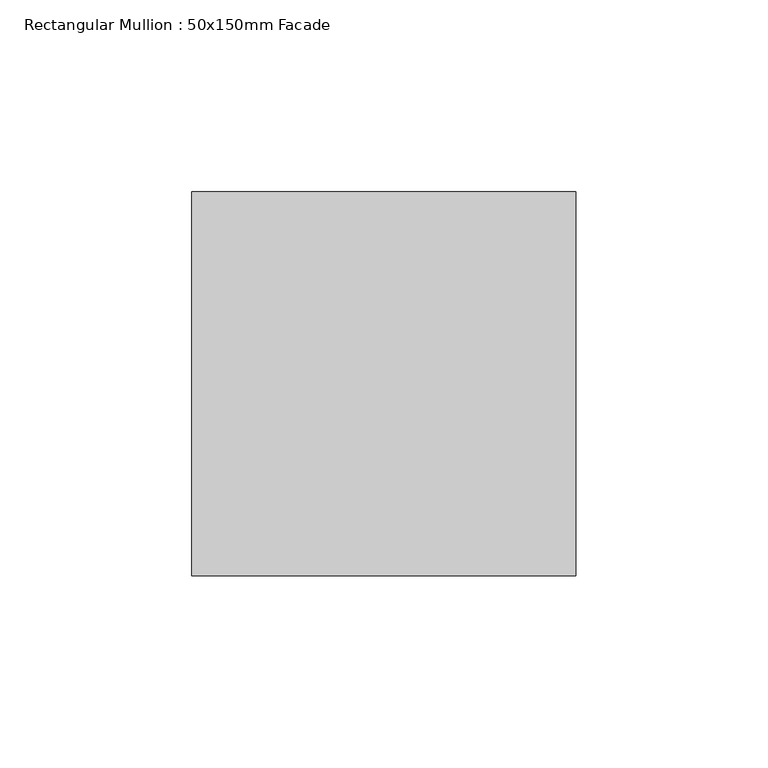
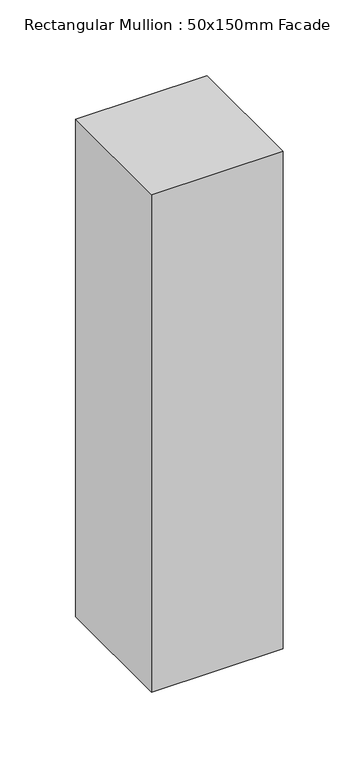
"""IFC4 building model written with IfcOpenShell, lengths in millimetres: member geometry, Rectangular Mullion : 50x150mm Facade."""

import ifcopenshell
import ifcopenshell.guid

model = None  # the IFC model being written
_history = None  # IfcOwnerHistory: only IFC2X3 demands one
_inside = {}  # id of a spatial element -> (the spatial element, [elements in it])
_under = {}  # id of a project, library or spatial element -> (it, [spatial elements below it])
_declared = {}  # id of a project -> (the project, [libraries it declares])
_typed = {}  # id of a type object -> (the type object, [elements of that type])
_made_of = {}  # id of a material, layer set ... -> (it, [elements and type objects made of it])


def new_model(schema):
    """Start an empty IFC model of exactly this schema.

    Asked for "IFC4X3", IfcOpenShell would pick the latest addendum, in which some entities
    have other attributes; the version numbers below select the first issue.
    IFC2X3 requires an IfcOwnerHistory on every rooted entity: one is made here for all.
    """
    global model, _history
    if schema == "IFC4X3":
        model = ifcopenshell.file(schema_version=(4, 3, 0, 0))
    else:
        model = ifcopenshell.file(schema=schema)
    _inside.clear()
    _under.clear()
    _declared.clear()
    _typed.clear()
    _made_of.clear()
    _history = None
    if model.schema == "IFC2X3":
        org = make("IfcOrganization", Name="unknown")
        user = make(
            "IfcPersonAndOrganization",
            ThePerson=make("IfcPerson", FamilyName="unknown"),
            TheOrganization=org,
        )
        app = make(
            "IfcApplication",
            ApplicationDeveloper=org,
            Version="unknown",
            ApplicationFullName="unknown",
            ApplicationIdentifier="unknown",
        )
        _history = make(
            "IfcOwnerHistory",
            OwningUser=user,
            OwningApplication=app,
            ChangeAction="ADDED",
            CreationDate=0,
        )
    return model


def make(cls, **values):
    """One entity of the class cls with the attributes given. An attribute that is None is left unset."""
    return model.create_entity(
        cls, **{name: value for name, value in values.items() if value is not None}
    )


def rooted(cls, **values):
    """An entity with a GlobalId (a new one), such as an element, a storey or a relation."""
    return make(cls, GlobalId=ifcopenshell.guid.new(), OwnerHistory=_history, **values)


def si_unit(unit_type, name, prefix=None):
    """IfcSIUnit, for example si_unit("LENGTHUNIT", "METRE", prefix="MILLI")."""
    return make("IfcSIUnit", UnitType=unit_type, Prefix=prefix, Name=name)


def assignment(units):
    """IfcUnitAssignment: the units of a project."""
    return None if units is None else make("IfcUnitAssignment", Units=units)


def point(xyz):
    """IfcCartesianPoint."""
    return None if xyz is None else make("IfcCartesianPoint", Coordinates=xyz)


def direction(xyz):
    """IfcDirection."""
    return None if xyz is None else make("IfcDirection", DirectionRatios=xyz)


def frame(location, z_axis=None, x_axis=None):
    """IfcAxis2Placement3D, a coordinate frame: its origin and axes. An axis left out is left unset."""
    return make(
        "IfcAxis2Placement3D",
        Location=point(location),
        Axis=direction(z_axis),
        RefDirection=direction(x_axis),
    )


def origin():
    """The frame at (0, 0, 0) with its axes left unset."""
    return frame((0.0, 0.0, 0.0))


def place(relative_to, where):
    """IfcLocalPlacement: puts the frame where relative to a parent placement (None: the world)."""
    return make(
        "IfcLocalPlacement", PlacementRelTo=relative_to, RelativePlacement=where
    )


def context(
    kind, dimensions, precision=None, world=None, true_north=None, identifier=None
):
    """IfcGeometricRepresentationContext, for example the 3D "Model" context."""
    return make(
        "IfcGeometricRepresentationContext",
        ContextIdentifier=identifier,
        ContextType=kind,
        CoordinateSpaceDimension=dimensions,
        Precision=precision,
        WorldCoordinateSystem=world,
        TrueNorth=true_north,
    )


def project(units=None, contexts=None):
    """IfcProject with its units and contexts."""
    return rooted(
        "IfcProject",
        Name="project",
        RepresentationContexts=contexts,
        UnitsInContext=assignment(units),
    )


def spatial(cls, under=None, at=None, **own):
    """A site, building, storey or space (cls), placed at a placement, below another one or the project."""
    s = rooted(cls, ObjectPlacement=at, **own)
    if under is not None:
        _under.setdefault(under.id(), (under, []))[1].append(s)
    return s


def polyline(points):
    """IfcPolyline through the points."""
    return make("IfcPolyline", Points=[point(p) for p in points])


def outline(outer, holes=None, kind="AREA"):
    """IfcArbitraryClosedProfileDef: a profile drawn as a closed curve; with holes, ...WithVoids."""
    if holes is None:
        return make("IfcArbitraryClosedProfileDef", ProfileType=kind, OuterCurve=outer)
    return make(
        "IfcArbitraryProfileDefWithVoids",
        ProfileType=kind,
        OuterCurve=outer,
        InnerCurves=holes,
    )


def extrude(swept, where, along, depth):
    """IfcExtrudedAreaSolid: the profile swept, set in the frame where, extruded along a direction by depth."""
    return make(
        "IfcExtrudedAreaSolid",
        SweptArea=swept,
        Position=where,
        ExtrudedDirection=direction(along),
        Depth=depth,
    )


def shape(context_of_items, identifier, shape_type, items):
    """IfcShapeRepresentation: the items that make up one representation, for example the "Body"."""
    return make(
        "IfcShapeRepresentation",
        ContextOfItems=context_of_items,
        RepresentationIdentifier=identifier,
        RepresentationType=shape_type,
        Items=items,
    )


def source(mapping_origin, context_of_items, identifier, shape_type, items):
    """IfcRepresentationMap: a shape defined once, which mapped items show again and again."""
    return make(
        "IfcRepresentationMap",
        MappingOrigin=mapping_origin,
        MappedRepresentation=shape(context_of_items, identifier, shape_type, items),
    )


def transform(
    local_origin,
    x_axis=None,
    y_axis=None,
    z_axis=None,
    scale=None,
    scale2=None,
    scale3=None,
    uniform=True,
):
    """IfcCartesianTransformationOperator3D, or its non-uniform kind. x_axis, y_axis, z_axis: its Axis1, 2, 3."""
    if uniform:
        return make(
            "IfcCartesianTransformationOperator3D",
            Axis1=direction(x_axis),
            Axis2=direction(y_axis),
            LocalOrigin=point(local_origin),
            Scale=scale,
            Axis3=direction(z_axis),
        )
    return make(
        "IfcCartesianTransformationOperator3DnonUniform",
        Axis1=direction(x_axis),
        Axis2=direction(y_axis),
        LocalOrigin=point(local_origin),
        Scale=scale,
        Axis3=direction(z_axis),
        Scale2=scale2,
        Scale3=scale3,
    )


def mapped(mapping_source, mapping_target):
    """IfcMappedItem: shows the shape of a source again, moved by a transform."""
    return make(
        "IfcMappedItem", MappingSource=mapping_source, MappingTarget=mapping_target
    )


def made_of(thing, what):
    """Note that an element or type object is made of a material, layer set ...; save() writes the relation."""
    if what is not None:
        _made_of.setdefault(what.id(), (what, []))[1].append(thing)
    return thing


def element(
    cls,
    number,
    at=None,
    inside=None,
    cuts=None,
    type_object=None,
    material=None,
    context=None,
    identifier="Body",
    shape_type=None,
    held_by="IfcProductDefinitionShape",
    body=None,
    shapes=None,
    **own,
):
    """One element of the class cls, such as IfcWall. Its Tag is "e" and its number.

    at: its placement. inside: the storey or other place that contains it. cuts: it is an
    opening in that element (IfcRelVoidsElement). A single representation is given by context,
    identifier, shape_type and body (its items); several are given by shapes. held_by: the class
    of the entity that holds the representations. save() writes the other relations.
    """
    e = rooted(cls, Tag="e%d" % number, ObjectPlacement=at, **own)
    if body is not None:
        shapes = [shape(context, identifier, shape_type, body)]
    if shapes is not None:
        e.Representation = make(held_by, Representations=shapes)
    if inside is not None:
        _inside.setdefault(inside.id(), (inside, []))[1].append(e)
    if cuts is not None:
        rooted(
            "IfcRelVoidsElement", RelatingBuildingElement=cuts, RelatedOpeningElement=e
        )
    if type_object is not None:
        _typed.setdefault(type_object.id(), (type_object, []))[1].append(e)
    return made_of(e, material)


def aggregate(whole, parts):
    """IfcRelAggregates: a whole, such as a stair, and the parts it consists of."""
    return rooted("IfcRelAggregates", RelatingObject=whole, RelatedObjects=parts)


def save(model, path):
    """Write the relations noted so far, then the file.

    IfcRelAggregates (storeys below a building ...), IfcRelContainedInSpatialStructure (elements
    in a storey), IfcRelDefinesByType, IfcRelAssociatesMaterial and IfcRelDeclares: one each for
    every whole, place, type object, material and project.
    """
    for whole, parts in _under.values():
        aggregate(whole, parts)
    for where, things in _inside.values():
        rooted(
            "IfcRelContainedInSpatialStructure",
            RelatedElements=things,
            RelatingStructure=where,
        )
    for kind, things in _typed.values():
        rooted("IfcRelDefinesByType", RelatedObjects=things, RelatingType=kind)
    for what, things in _made_of.values():
        rooted("IfcRelAssociatesMaterial", RelatedObjects=things, RelatingMaterial=what)
    for by, libraries in _declared.values():
        rooted("IfcRelDeclares", RelatingContext=by, RelatedDefinitions=libraries)
    model.write(path)


def rectangular_mullion_50x150mm_facade_010fe28e(model_context):
    return source(origin(), model_context, "Body", "SweptSolid", [
        extrude(outline(polyline([(50.0, 50.0), (50.0, -50.0), (-50.0, -50.0), (-50.0, 50.0), (50.0, 50.0)])), frame((0.0, 0.0, -400.0), z_axis=(0.0, 0.0, 1.0), x_axis=(1.0, 0.0, 0.0)), (0.0, 0.0, 1.0), 400.0),
    ])


if __name__ == "__main__":
    model = new_model("IFC4")
    model_context = context("Model", 3, world=origin())
    ifc_project = project(units=[si_unit("LENGTHUNIT", "METRE", prefix="MILLI")], contexts=[model_context])
    site = spatial("IfcSite", under=ifc_project)
    building = spatial("IfcBuilding", under=site)
    placement = place(None, origin())
    rectangular_mullion_50x150mm_facade_shape = rectangular_mullion_50x150mm_facade_010fe28e(model_context)
    element("IfcMember", 1, ObjectType="Rectangular Mullion : 50x150mm Facade", at=placement, inside=building, context=model_context, shape_type="MappedRepresentation", body=[
        mapped(rectangular_mullion_50x150mm_facade_shape, transform((0.0, 0.0, 0.0), x_axis=(1.0, 0.0, 0.0), y_axis=(0.0, 1.0, 0.0), z_axis=(0.0, 0.0, 1.0))),
    ])
    save(model, "model.ifc")
